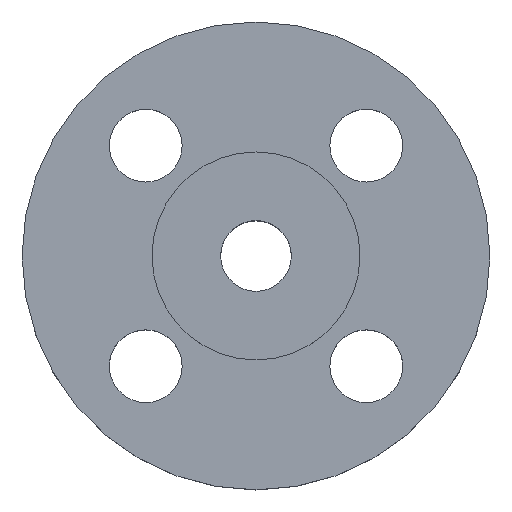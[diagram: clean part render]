
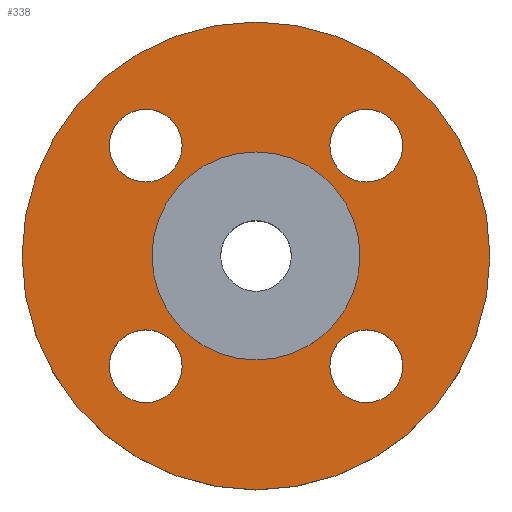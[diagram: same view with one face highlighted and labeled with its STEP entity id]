
A CAD part, top view. The second image highlights one B-rep face of the part: STEP entity #338.
In plain terms, the highlighted planar face has unit normal (0, 0, 1).
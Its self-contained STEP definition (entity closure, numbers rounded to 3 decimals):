
#9 = DIRECTION ( 'NONE',  ( 0., 0., 1. ) ) ;
#13 = DIRECTION ( 'NONE',  ( 1., 0., 0. ) ) ;
#15 = EDGE_CURVE ( 'NONE', #763, #590, #468, .T. ) ;
#49 = EDGE_LOOP ( 'NONE', ( #843, #300 ) ) ;
#57 = DIRECTION ( 'NONE',  ( 0., 0., -1. ) ) ;
#58 = CARTESIAN_POINT ( 'NONE',  ( 21.213, -21.213, 0. ) ) ;
#69 = EDGE_LOOP ( 'NONE', ( #654, #462 ) ) ;
#72 = FACE_BOUND ( 'NONE', #195, .T. ) ;
#73 = FACE_BOUND ( 'NONE', #434, .T. ) ;
#75 = CARTESIAN_POINT ( 'NONE',  ( 21.213, -21.213, 0. ) ) ;
#77 = DIRECTION ( 'NONE',  ( -1., 0., 0. ) ) ;
#80 = CARTESIAN_POINT ( 'NONE',  ( 13.5, 0., 0. ) ) ;
#91 = CARTESIAN_POINT ( 'NONE',  ( -21.213, -21.213, 0. ) ) ;
#93 = CARTESIAN_POINT ( 'NONE',  ( 45., 0., 0. ) ) ;
#94 = DIRECTION ( 'NONE',  ( -1., 0., 0. ) ) ;
#95 = DIRECTION ( 'NONE',  ( 0., 0., -1. ) ) ;
#98 = CARTESIAN_POINT ( 'NONE',  ( 14.213, -21.213, 0. ) ) ;
#106 = CIRCLE ( 'NONE', #713, 7. ) ;
#111 = CARTESIAN_POINT ( 'NONE',  ( -21.213, 21.213, 0. ) ) ;
#112 = DIRECTION ( 'NONE',  ( 0., 0., -1. ) ) ;
#120 = FACE_BOUND ( 'NONE', #306, .T. ) ;
#121 = FACE_BOUND ( 'NONE', #49, .T. ) ;
#132 = DIRECTION ( 'NONE',  ( -1., 0., 0. ) ) ;
#133 = VERTEX_POINT ( 'NONE', #554 ) ;
#138 = CARTESIAN_POINT ( 'NONE',  ( -14.213, 21.213, 0. ) ) ;
#165 = DIRECTION ( 'NONE',  ( 0., 0., -1. ) ) ;
#170 = CARTESIAN_POINT ( 'NONE',  ( -21.213, -21.213, 0. ) ) ;
#171 = DIRECTION ( 'NONE',  ( -1., 0., 0. ) ) ;
#195 = EDGE_LOOP ( 'NONE', ( #394, #472 ) ) ;
#199 = DIRECTION ( 'NONE',  ( 0., 0., -1. ) ) ;
#202 = CARTESIAN_POINT ( 'NONE',  ( 21.213, 21.213, 0. ) ) ;
#205 = DIRECTION ( 'NONE',  ( -1., 0., 0. ) ) ;
#207 = CIRCLE ( 'NONE', #574, 7. ) ;
#224 = DIRECTION ( 'NONE',  ( -1., 0., 0. ) ) ;
#226 = CARTESIAN_POINT ( 'NONE',  ( -21.213, 21.213, 0. ) ) ;
#227 = DIRECTION ( 'NONE',  ( 0., 0., -1. ) ) ;
#232 = DIRECTION ( 'NONE',  ( 0., 0., -1. ) ) ;
#241 = CIRCLE ( 'NONE', #757, 7. ) ;
#248 = ORIENTED_EDGE ( 'NONE', *, *, #552, .T. ) ;
#252 = VERTEX_POINT ( 'NONE', #507 ) ;
#253 = ORIENTED_EDGE ( 'NONE', *, *, #666, .T. ) ;
#300 = ORIENTED_EDGE ( 'NONE', *, *, #580, .T. ) ;
#306 = EDGE_LOOP ( 'NONE', ( #390, #248 ) ) ;
#309 = AXIS2_PLACEMENT_3D ( 'NONE', #861, #860, #858 ) ;
#327 = CARTESIAN_POINT ( 'NONE',  ( -45., 0., 0. ) ) ;
#333 = EDGE_CURVE ( 'NONE', #352, #557, #517, .T. ) ;
#338 = ADVANCED_FACE ( 'NONE', ( #120, #121, #72, #73, #481, #867 ), #863, .T. ) ;
#343 = CARTESIAN_POINT ( 'NONE',  ( 28.213, -21.213, 0. ) ) ;
#352 = VERTEX_POINT ( 'NONE', #856 ) ;
#365 = CARTESIAN_POINT ( 'NONE',  ( -14.213, -21.213, 0. ) ) ;
#378 = CARTESIAN_POINT ( 'NONE',  ( 0., 0., 0. ) ) ;
#379 = EDGE_CURVE ( 'NONE', #833, #439, #492, .T. ) ;
#390 = ORIENTED_EDGE ( 'NONE', *, *, #15, .T. ) ;
#394 = ORIENTED_EDGE ( 'NONE', *, *, #682, .T. ) ;
#400 = DIRECTION ( 'NONE',  ( 0., 0., 1. ) ) ;
#401 = DIRECTION ( 'NONE',  ( 1., 0., 0. ) ) ;
#408 = CARTESIAN_POINT ( 'NONE',  ( 14.213, 21.213, 0. ) ) ;
#415 = EDGE_CURVE ( 'NONE', #577, #770, #606, .T. ) ;
#434 = EDGE_LOOP ( 'NONE', ( #253, #473 ) ) ;
#438 = CIRCLE ( 'NONE', #764, 7. ) ;
#439 = VERTEX_POINT ( 'NONE', #788 ) ;
#445 = CIRCLE ( 'NONE', #706, 7. ) ;
#458 = CIRCLE ( 'NONE', #596, 7. ) ;
#459 = EDGE_CURVE ( 'NONE', #770, #577, #493, .T. ) ;
#461 = AXIS2_PLACEMENT_3D ( 'NONE', #378, #400, #401 ) ;
#462 = ORIENTED_EDGE ( 'NONE', *, *, #333, .F. ) ;
#468 = CIRCLE ( 'NONE', #651, 7. ) ;
#472 = ORIENTED_EDGE ( 'NONE', *, *, #616, .T. ) ;
#473 = ORIENTED_EDGE ( 'NONE', *, *, #379, .T. ) ;
#481 = FACE_BOUND ( 'NONE', #69, .T. ) ;
#485 = DIRECTION ( 'NONE',  ( 1., 0., 0. ) ) ;
#486 = DIRECTION ( 'NONE',  ( 0., 0., 1. ) ) ;
#487 = CARTESIAN_POINT ( 'NONE',  ( 0., 0., 0. ) ) ;
#492 = CIRCLE ( 'NONE', #747, 7. ) ;
#493 = CIRCLE ( 'NONE', #652, 45. ) ;
#506 = ORIENTED_EDGE ( 'NONE', *, *, #415, .T. ) ;
#507 = CARTESIAN_POINT ( 'NONE',  ( -28.213, -21.213, 0. ) ) ;
#517 = CIRCLE ( 'NONE', #693, 13.5 ) ;
#552 = EDGE_CURVE ( 'NONE', #590, #763, #241, .T. ) ;
#554 = CARTESIAN_POINT ( 'NONE',  ( -28.213, 21.213, 0. ) ) ;
#557 = VERTEX_POINT ( 'NONE', #80 ) ;
#574 = AXIS2_PLACEMENT_3D ( 'NONE', #170, #165, #171 ) ;
#577 = VERTEX_POINT ( 'NONE', #93 ) ;
#580 = EDGE_CURVE ( 'NONE', #252, #780, #445, .T. ) ;
#590 = VERTEX_POINT ( 'NONE', #98 ) ;
#596 = AXIS2_PLACEMENT_3D ( 'NONE', #226, #227, #224 ) ;
#606 = CIRCLE ( 'NONE', #672, 45. ) ;
#610 = CIRCLE ( 'NONE', #461, 13.5 ) ;
#616 = EDGE_CURVE ( 'NONE', #133, #632, #106, .T. ) ;
#632 = VERTEX_POINT ( 'NONE', #138 ) ;
#634 = DIRECTION ( 'NONE',  ( -1., 0., 0. ) ) ;
#648 = EDGE_CURVE ( 'NONE', #780, #252, #207, .T. ) ;
#651 = AXIS2_PLACEMENT_3D ( 'NONE', #75, #232, #634 ) ;
#652 = AXIS2_PLACEMENT_3D ( 'NONE', #784, #9, #13 ) ;
#654 = ORIENTED_EDGE ( 'NONE', *, *, #805, .F. ) ;
#666 = EDGE_CURVE ( 'NONE', #439, #833, #438, .T. ) ;
#671 = ORIENTED_EDGE ( 'NONE', *, *, #459, .T. ) ;
#672 = AXIS2_PLACEMENT_3D ( 'NONE', #824, #823, #822 ) ;
#682 = EDGE_CURVE ( 'NONE', #632, #133, #458, .T. ) ;
#693 = AXIS2_PLACEMENT_3D ( 'NONE', #487, #486, #485 ) ;
#706 = AXIS2_PLACEMENT_3D ( 'NONE', #91, #95, #94 ) ;
#713 = AXIS2_PLACEMENT_3D ( 'NONE', #111, #112, #132 ) ;
#725 = EDGE_LOOP ( 'NONE', ( #506, #671 ) ) ;
#747 = AXIS2_PLACEMENT_3D ( 'NONE', #852, #851, #848 ) ;
#757 = AXIS2_PLACEMENT_3D ( 'NONE', #58, #57, #77 ) ;
#763 = VERTEX_POINT ( 'NONE', #343 ) ;
#764 = AXIS2_PLACEMENT_3D ( 'NONE', #202, #199, #205 ) ;
#770 = VERTEX_POINT ( 'NONE', #327 ) ;
#780 = VERTEX_POINT ( 'NONE', #365 ) ;
#784 = CARTESIAN_POINT ( 'NONE',  ( 0., 0., 0. ) ) ;
#788 = CARTESIAN_POINT ( 'NONE',  ( 28.213, 21.213, 0. ) ) ;
#805 = EDGE_CURVE ( 'NONE', #557, #352, #610, .T. ) ;
#822 = DIRECTION ( 'NONE',  ( 1., 0., 0. ) ) ;
#823 = DIRECTION ( 'NONE',  ( 0., 0., 1. ) ) ;
#824 = CARTESIAN_POINT ( 'NONE',  ( 0., 0., 0. ) ) ;
#833 = VERTEX_POINT ( 'NONE', #408 ) ;
#843 = ORIENTED_EDGE ( 'NONE', *, *, #648, .T. ) ;
#848 = DIRECTION ( 'NONE',  ( -1., 0., 0. ) ) ;
#851 = DIRECTION ( 'NONE',  ( 0., 0., -1. ) ) ;
#852 = CARTESIAN_POINT ( 'NONE',  ( 21.213, 21.213, 0. ) ) ;
#856 = CARTESIAN_POINT ( 'NONE',  ( -13.5, 0., 0. ) ) ;
#858 = DIRECTION ( 'NONE',  ( 1., 0., 0. ) ) ;
#860 = DIRECTION ( 'NONE',  ( 0., 0., 1. ) ) ;
#861 = CARTESIAN_POINT ( 'NONE',  ( 0., 0., 0. ) ) ;
#863 = PLANE ( 'NONE',  #309 ) ;
#867 = FACE_OUTER_BOUND ( 'NONE', #725, .T. ) ;
